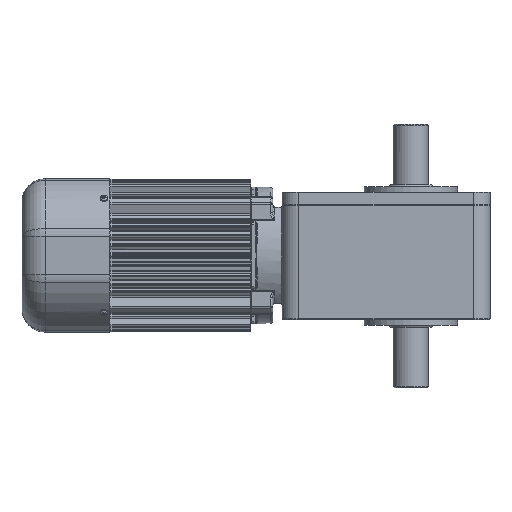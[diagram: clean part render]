
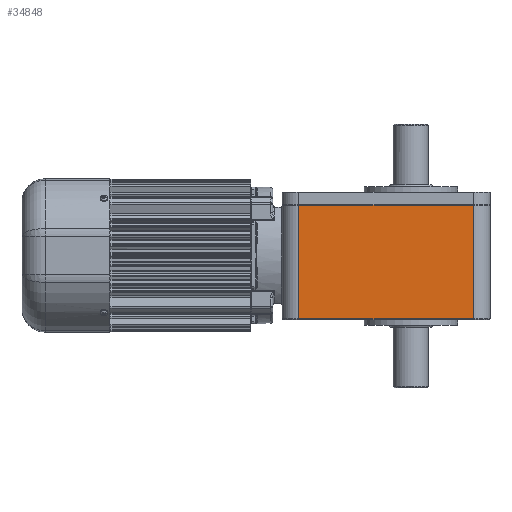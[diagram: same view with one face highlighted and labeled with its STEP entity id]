
A CAD part, front view. The second image highlights one B-rep face of the part: STEP entity #34848.
In plain terms, the highlighted planar face has unit normal (0, -1, 0).
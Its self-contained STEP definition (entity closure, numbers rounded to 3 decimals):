
#1132=LINE('',#56712,#3649);
#1242=LINE('',#57319,#3759);
#1249=LINE('',#57352,#3766);
#1250=LINE('',#57354,#3767);
#3649=VECTOR('',#42503,159.);
#3759=VECTOR('',#43079,159.);
#3766=VECTOR('',#43118,103.);
#3767=VECTOR('',#43121,103.);
#7318=FACE_OUTER_BOUND('',#9439,.T.);
#9439=EDGE_LOOP('',(#23912,#23913,#23914,#23915));
#13978=VERTEX_POINT('',#56709);
#13979=VERTEX_POINT('',#56711);
#14162=VERTEX_POINT('',#57279);
#14171=VERTEX_POINT('',#57317);
#17517=EDGE_CURVE('',#13978,#13979,#1132,.T.);
#17783=EDGE_CURVE('',#14171,#14162,#1242,.T.);
#17800=EDGE_CURVE('',#13978,#14162,#1249,.T.);
#17801=EDGE_CURVE('',#13979,#14171,#1250,.T.);
#23912=ORIENTED_EDGE('',*,*,#17783,.F.);
#23913=ORIENTED_EDGE('',*,*,#17801,.F.);
#23914=ORIENTED_EDGE('',*,*,#17517,.F.);
#23915=ORIENTED_EDGE('',*,*,#17800,.T.);
#32096=PLANE('',#37431);
#34848=ADVANCED_FACE('',(#7318),#32096,.T.);
#37431=AXIS2_PLACEMENT_3D('',#57353,#43119,#43120);
#42503=DIRECTION('',(1.,0.,0.));
#43079=DIRECTION('',(-1.,0.,0.));
#43118=DIRECTION('',(0.,0.,-1.));
#43119=DIRECTION('center_axis',(0.,-1.,0.));
#43120=DIRECTION('ref_axis',(0.,0.,-1.));
#43121=DIRECTION('',(0.,0.,-1.));
#56709=CARTESIAN_POINT('',(-102.,-104.,45.5));
#56711=CARTESIAN_POINT('',(57.,-104.,45.5));
#56712=CARTESIAN_POINT('',(-102.,-104.,45.5));
#57279=CARTESIAN_POINT('',(-102.,-104.,-57.5));
#57317=CARTESIAN_POINT('',(57.,-104.,-57.5));
#57319=CARTESIAN_POINT('',(57.,-104.,-57.5));
#57352=CARTESIAN_POINT('',(-102.,-104.,45.5));
#57353=CARTESIAN_POINT('Origin',(57.,-104.,0.));
#57354=CARTESIAN_POINT('',(57.,-104.,45.5));
